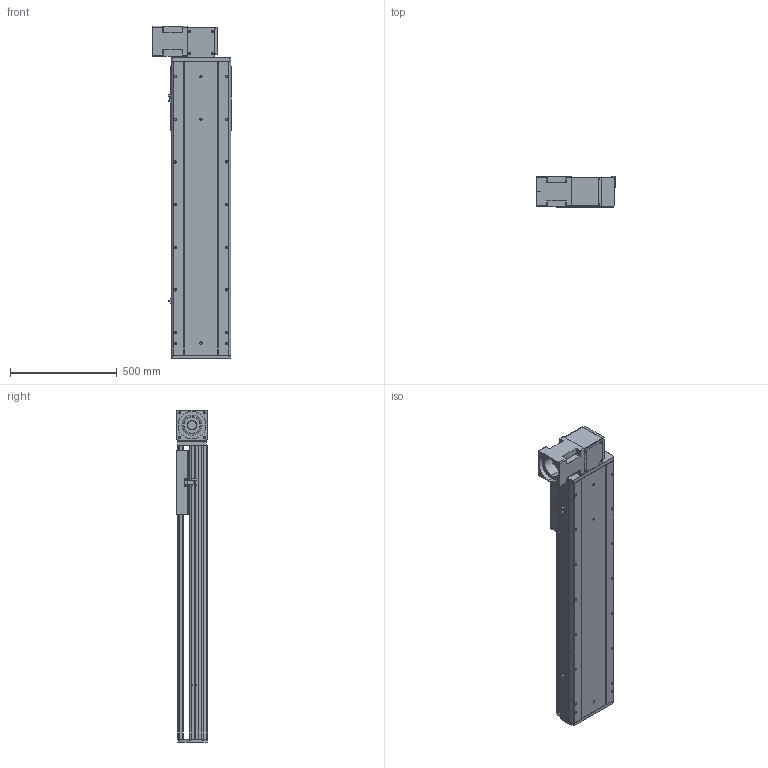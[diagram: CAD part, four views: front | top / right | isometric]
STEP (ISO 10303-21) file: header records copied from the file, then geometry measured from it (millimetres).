
FILE_DESCRIPTION (( 'STEP AP214' ), '1' );
FILE_NAME ('RTB28R-XX-980-BR-M100-XX-C4.STEP', '2025-12-22T01:09:55', ( '' ), ( '' ), 'SwSTEP 2.0', 'SolidWorks 2018', '' );
FILE_SCHEMA (( 'AUTOMOTIVE_DESIGN' ));
Length unit declared in the file: millimetre
Products named in the file (4): RTB28S-GY-011^RTB28R-XX-XX-BR-M100-XX-C4; RTB28R-XX-980-BR-M100-XX-C4; RTB28S-GY-008^RTB28R-XX-XX-BR-M100-XX-C4; RTB28S-GY-004^RTB28R-XX-XX-BR-M100-XX-C4
Assembly tree (3 placements, depth 2):
  RTB28R-XX-980-BR-M100-XX-C4
    RTB28S-GY-011^RTB28R-XX-XX-BR-M100-XX-C4
    RTB28S-GY-004^RTB28R-XX-XX-BR-M100-XX-C4
    RTB28S-GY-008^RTB28R-XX-XX-BR-M100-XX-C4
Bounding box: 370 x 145 x 1557 mm (x, y, z)
Volume: 28819838.1 mm3; surface area: 2791948.9 mm2
Topology: 3 solids, 4 shells, 988 faces, 2610 edges, 1676 vertices
Faces by surface type: plane 456, cylinder 361, bspline 87, cone 80, torus 4
Entity records: 42202 total; most frequent: CARTESIAN_POINT 11245, ORIENTED_EDGE 5156, DIRECTION 4998, EDGE_CURVE 2578, AXIS2_PLACEMENT_3D 1713, VERTEX_POINT 1676, VECTOR 1572, LINE 1572
